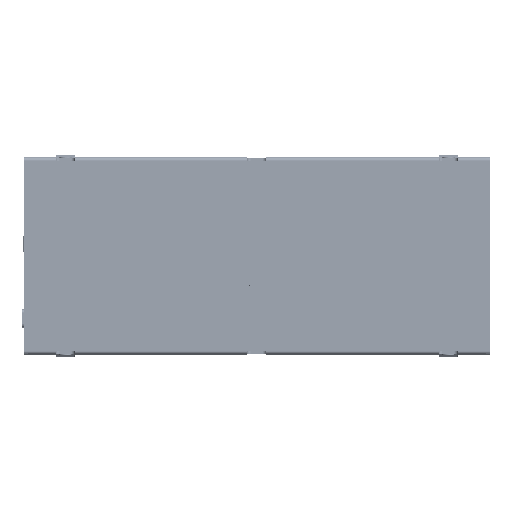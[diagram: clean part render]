
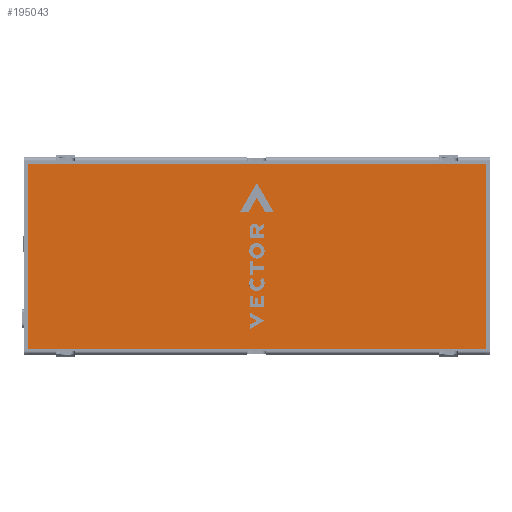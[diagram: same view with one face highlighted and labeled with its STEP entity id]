
A CAD part, left-side view. The second image highlights one B-rep face of the part: STEP entity #195043.
In plain terms, the highlighted planar face has unit normal (-1, 0, 0).
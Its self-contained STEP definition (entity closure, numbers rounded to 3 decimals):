
#8013=PLANE('',#208152);
#15591=FACE_OUTER_BOUND('',#26203,.T.);
#26203=EDGE_LOOP('',(#143394,#143395,#143396,#143397));
#38525=LINE('',#306341,#56236);
#38532=LINE('',#306353,#56243);
#38534=LINE('',#306356,#56245);
#38535=LINE('',#306358,#56246);
#56236=VECTOR('',#237693,10.);
#56243=VECTOR('',#237706,10.);
#56245=VECTOR('',#237710,10.);
#56246=VECTOR('',#237713,10.);
#82623=VERTEX_POINT('',#306338);
#82624=VERTEX_POINT('',#306340);
#82625=VERTEX_POINT('',#306350);
#82626=VERTEX_POINT('',#306352);
#104868=EDGE_CURVE('',#82623,#82624,#38525,.T.);
#104875=EDGE_CURVE('',#82625,#82626,#38532,.T.);
#104877=EDGE_CURVE('',#82624,#82625,#38534,.T.);
#104878=EDGE_CURVE('',#82626,#82623,#38535,.T.);
#143394=ORIENTED_EDGE('',*,*,#104878,.F.);
#143395=ORIENTED_EDGE('',*,*,#104875,.F.);
#143396=ORIENTED_EDGE('',*,*,#104877,.F.);
#143397=ORIENTED_EDGE('',*,*,#104868,.F.);
#195043=ADVANCED_FACE('',(#15591),#8013,.T.);
#208152=AXIS2_PLACEMENT_3D('',#306359,#237714,#237715);
#237693=DIRECTION('',(0.,0.,1.));
#237706=DIRECTION('',(0.,0.,-1.));
#237710=DIRECTION('',(0.,-1.,0.));
#237713=DIRECTION('',(0.,1.,0.));
#237714=DIRECTION('center_axis',(-1.,0.,0.));
#237715=DIRECTION('ref_axis',(0.,0.,
-1.));
#306338=CARTESIAN_POINT('',(-20.975,122.775,-102.65));
#306340=CARTESIAN_POINT('',(-20.975,122.775,-3.4));
#306341=CARTESIAN_POINT('',(-20.975,122.775,-77.8));
#306350=CARTESIAN_POINT('',(-20.975,-122.775,-3.4));
#306352=CARTESIAN_POINT('',(-20.975,-122.775,-102.65));
#306353=CARTESIAN_POINT('',(-20.975,-122.775,-28.25));
#306356=CARTESIAN_POINT('',(-20.975,61.35,-3.4));
#306358=CARTESIAN_POINT('',(-20.975,-61.35,-102.65));
#306359=CARTESIAN_POINT('Origin',(-20.975,0.,-53.025));
